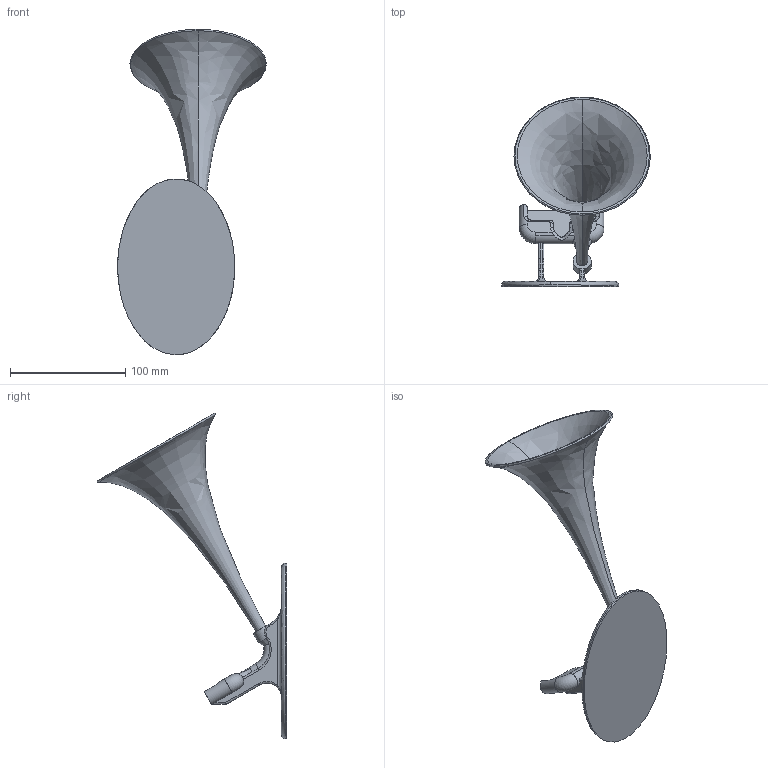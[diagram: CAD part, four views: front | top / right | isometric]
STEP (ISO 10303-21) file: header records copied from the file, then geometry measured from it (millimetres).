
FILE_DESCRIPTION (( 'STEP AP203' ), '1' );
FILE_NAME ('GRAMiPhone Horn REV 1.STEP', '2015-12-03T22:08:17', ( '' ), ( '' ), 'SwSTEP 2.0', 'SolidWorks 2015', '' );
FILE_SCHEMA (( 'CONFIG_CONTROL_DESIGN' ));
Length unit declared in the file: inch
Products named in the file (1): GRAMiPhone Horn REV 1
Bounding box: 128.94 x 164.39 x 282.26 mm (x, y, z)
Volume: 135721.6 mm3; surface area: 87234.8 mm2
Topology: 2 solids, 2 shells, 179 faces, 450 edges, 268 vertices
Faces by surface type: cylinder 69, plane 43, torus 30, bspline 30, cone 7
Entity records: 12571 total; most frequent: CARTESIAN_POINT 8488, ORIENTED_EDGE 884, DIRECTION 790, EDGE_CURVE 442, AXIS2_PLACEMENT_3D 314, VERTEX_POINT 268, EDGE_LOOP 186, FACE_OUTER_BOUND 179
